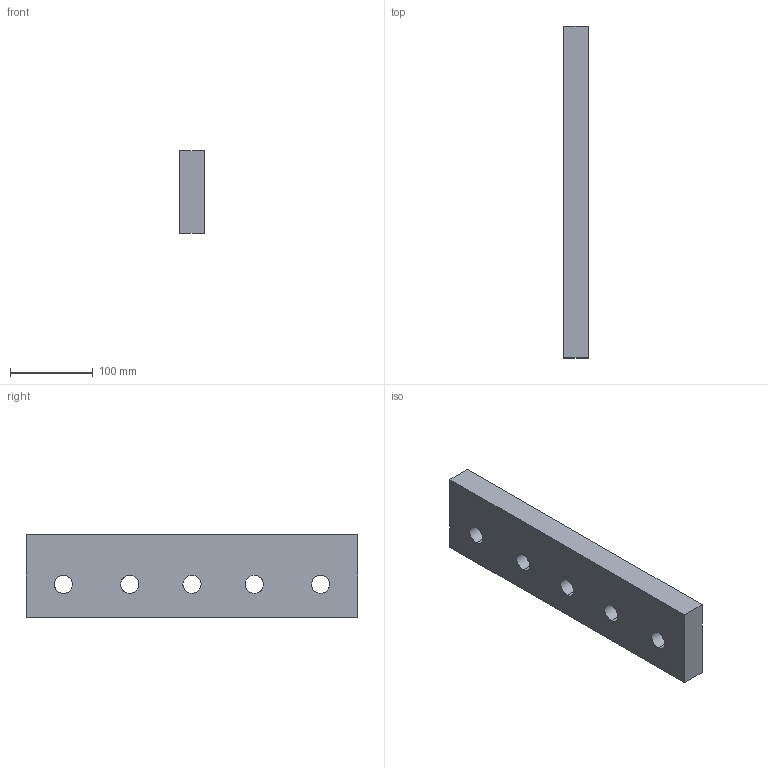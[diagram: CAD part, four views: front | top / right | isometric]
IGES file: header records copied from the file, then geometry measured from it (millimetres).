
Start section: START RECORD GO HERE.
Global section: file name: A612-100-4001.igs; native system: DASSAULT SYSTEMES CATIA V5 R20 - www.3ds.com; preprocessor: CATIA Version 5 Release 20 ; author: Utente; organization: NB04-ASUS; date: 20200414.151721; units: millimetre
Bounding box: 30 x 400 x 100 mm (x, y, z)
Surface area: 116566 mm2 (no closed solid volume)
Topology: 0 solids, 0 shells, 16 faces, 84 edges, 84 vertices
Faces by surface type: revolution 10, extrusion 6
